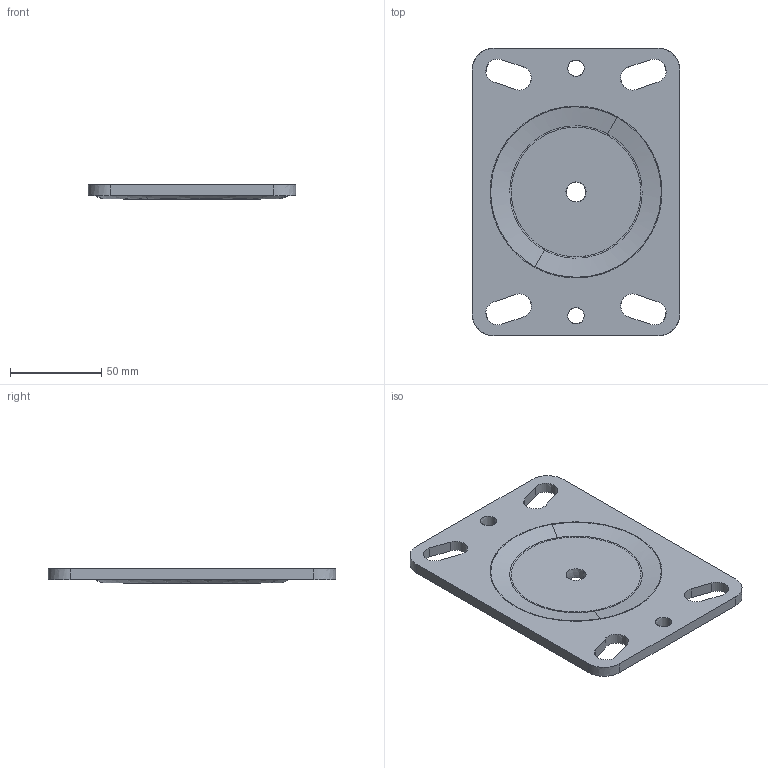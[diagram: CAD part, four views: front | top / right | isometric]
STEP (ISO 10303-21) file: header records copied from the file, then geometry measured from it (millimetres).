
FILE_DESCRIPTION (( 'STEP AP203' ), '1' );
FILE_NAME ('KTU-200WJ-GS-11.STEP', '2019-09-25T07:31:17', ( '' ), ( '' ), 'SwSTEP 2.0', 'SolidWorks 2010', '' );
FILE_SCHEMA (( 'CONFIG_CONTROL_DESIGN' ));
Length unit declared in the file: millimetre
Products named in the file (1): KTU-200WJ-GS-11
Bounding box: 114 x 158 x 8 mm (x, y, z)
Volume: 95045.5 mm3; surface area: 39606.6 mm2
Topology: 1 solids, 1 shells, 51 faces, 1030 edges, 984 vertices
Faces by surface type: bspline 34, plane 17
Entity records: 14853 total; most frequent: CARTESIAN_POINT 8880, ORIENTED_EDGE 2060, EDGE_CURVE 1030, VERTEX_POINT 984, B_SPLINE_CURVE_WITH_KNOTS 782, DIRECTION 284, LINE 248, VECTOR 248
